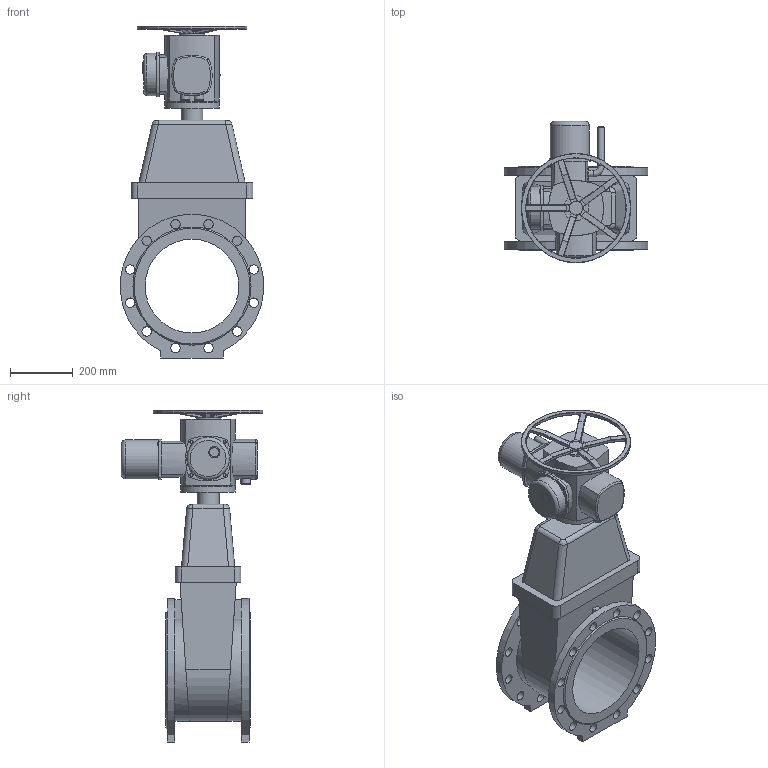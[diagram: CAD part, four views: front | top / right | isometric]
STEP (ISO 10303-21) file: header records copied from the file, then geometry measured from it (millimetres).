
FILE_DESCRIPTION(('STEP AP203'), '1');
FILE_NAME('青溻桄赅 47GVA DN300 PN10_PN16+MT903.Z30', '', ('UNSPECIFIED'), ('UNSPECIFIED'), 'ASCON STEP Converter 1.6', 'ASCON Math Kernel', '');
FILE_SCHEMA(('CONFIG_CONTROL_DESIGN'));
Length unit declared in the file: millimetre
Bounding box: 458.56 x 453 x 1062 mm (x, y, z)
Volume: 40963899.4 mm3; surface area: 1887816.6 mm2
Topology: 2 solids, 2 shells, 398 faces, 959 edges, 592 vertices
Faces by surface type: cylinder 199, plane 161, torus 25, cone 7, bspline 6
Full cylindrical faces by diameter (mm): 10 x8, 13.835 x4, 18 x4, 20 x2, 29.22 x1, 30 x27, 36 x1, 40 x1, 70 x1, 80 x1, 100 x2, 125 x1, 135 x1, 175 x2, 300 x1, 350 x1
Entity records: 18663 total; most frequent: CARTESIAN_POINT 6892, ORIENTED_EDGE 1718, DIRECTION 1673, EDGE_CURVE 859, AXIS2_PLACEMENT_3D 666, EDGE_LOOP 584, VERTEX_POINT 583, FACE_BOUND 416
